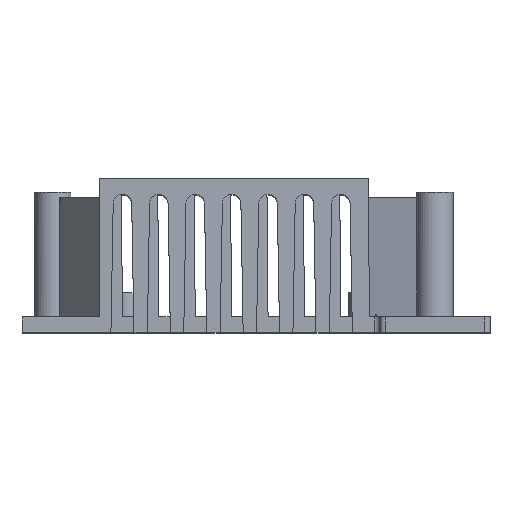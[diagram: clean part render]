
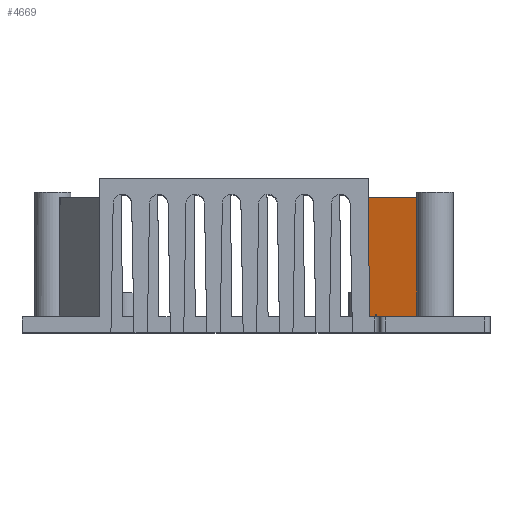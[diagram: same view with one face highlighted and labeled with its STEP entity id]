
A CAD part, top view. The second image highlights one B-rep face of the part: STEP entity #4669.
In plain terms, the highlighted planar face has unit normal (-0.259, 0.009, 0.966).
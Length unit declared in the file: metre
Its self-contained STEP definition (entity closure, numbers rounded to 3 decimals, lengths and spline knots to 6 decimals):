
#80=ELLIPSE('',#5041,0.114593,0.001);
#81=ELLIPSE('',#5043,0.401076,0.0035);
#1472=ORIENTED_EDGE('',*,*,#1939,.T.);
#1473=ORIENTED_EDGE('',*,*,#1943,.T.);
#1474=ORIENTED_EDGE('',*,*,#1935,.T.);
#1475=ORIENTED_EDGE('',*,*,#2235,.F.);
#1476=ORIENTED_EDGE('',*,*,#1663,.T.);
#1477=ORIENTED_EDGE('',*,*,#2236,.T.);
#1663=EDGE_CURVE('',#2341,#2340,#2794,.T.);
#1935=EDGE_CURVE('',#2539,#2541,#3006,.T.);
#1939=EDGE_CURVE('',#2543,#2545,#3009,.T.);
#1943=EDGE_CURVE('',#2545,#2539,#3013,.T.);
#2235=EDGE_CURVE('',#2341,#2541,#80,.T.);
#2236=EDGE_CURVE('',#2340,#2543,#81,.F.);
#2340=VERTEX_POINT('',#6517);
#2341=VERTEX_POINT('',#6519);
#2539=VERTEX_POINT('',#7066);
#2541=VERTEX_POINT('',#7070);
#2543=VERTEX_POINT('',#7075);
#2545=VERTEX_POINT('',#7079);
#2794=LINE('',#6518,#3312);
#3006=LINE('',#7071,#3524);
#3009=LINE('',#7080,#3527);
#3013=LINE('',#7086,#3531);
#3312=VECTOR('',#5185,1.);
#3524=VECTOR('',#5669,1.);
#3527=VECTOR('',#5676,1.);
#3531=VECTOR('',#5682,1.);
#3995=EDGE_LOOP('',(#1472,#1473,#1474,#1475,#1476,#1477));
#4277=FACE_BOUND('',#3995,.T.);
#4468=PLANE('',#5042);
#4669=ADVANCED_FACE('',(#4277),#4468,.T.);
#5041=AXIS2_PLACEMENT_3D('',#7647,#6244,#6245);
#5042=AXIS2_PLACEMENT_3D('',#7648,#6246,#6247);
#5043=AXIS2_PLACEMENT_3D('',#7649,#6248,#6249);
#5185=DIRECTION('',(0.966,0.,0.259));
#5669=DIRECTION('',(0.966,0.,0.259));
#5676=DIRECTION('',(-0.966,0.,-0.259));
#5682=DIRECTION('',(0.009,-1.,0.011));
#6244=DIRECTION('',(-0.259,0.009,0.966));
#6245=DIRECTION('',(-0.002,-1.,0.008));
#6246=DIRECTION('',(-0.259,0.009,0.966));
#6247=DIRECTION('',(0.966,0.,0.259));
#6248=DIRECTION('',(-0.259,0.009,0.966));
#6249=DIRECTION('',(-0.002,-1.,0.008));
#6517=CARTESIAN_POINT('',(-0.034788,0.059124,1.464097));
#6518=CARTESIAN_POINT('',(-0.04253,0.059124,1.462022));
#6519=CARTESIAN_POINT('',(-0.04253,0.059124,1.462022));
#7066=CARTESIAN_POINT('',(-0.043882,0.059124,1.46166));
#7070=CARTESIAN_POINT('',(-0.042718,0.059124,1.461972));
#7071=CARTESIAN_POINT('',(-0.043882,0.059124,1.46166));
#7075=CARTESIAN_POINT('',(-0.034788,0.082124,1.463889));
#7079=CARTESIAN_POINT('',(-0.044083,0.082124,1.461398));
#7080=CARTESIAN_POINT('',(-0.034788,0.082124,1.463889));
#7086=CARTESIAN_POINT('',(-0.044083,0.082124,1.461398));
#7647=CARTESIAN_POINT('',(-0.042882,-0.05492,1.462958));
#7648=CARTESIAN_POINT('',(-0.046642,0.059124,1.46092));
#7649=CARTESIAN_POINT('',(-0.03129,0.173713,1.463999));
